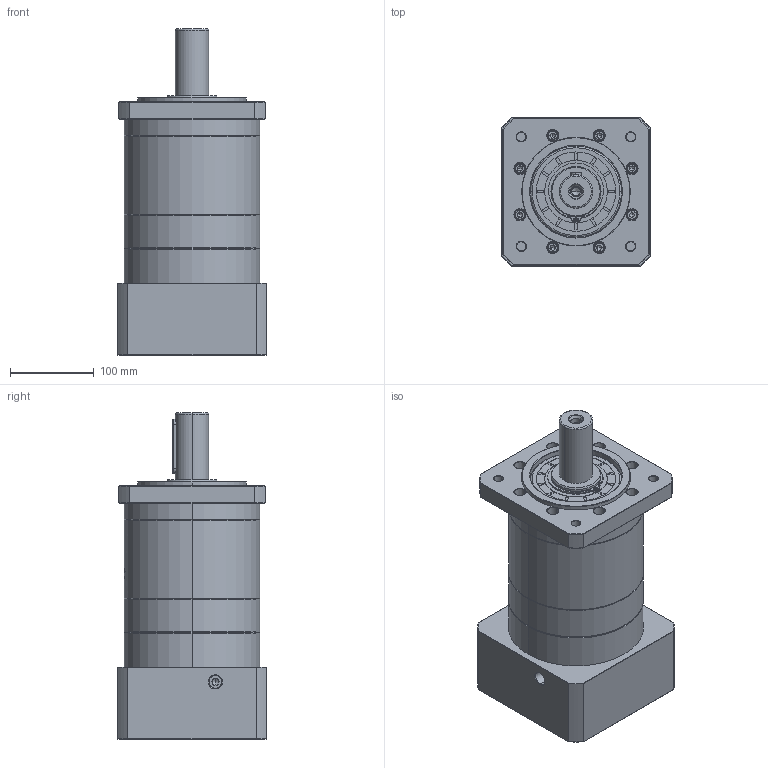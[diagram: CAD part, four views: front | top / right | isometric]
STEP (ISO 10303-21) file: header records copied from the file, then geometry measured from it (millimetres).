
FILE_DESCRIPTION (( 'STEP AP214' ), '1' );
FILE_NAME ('ZF160-D40-L3-42-114.3-200-M12.step', '2023-03-21T04:30:57', ( '' ), ( '' ), 'SwSTEP 2.0', 'SolidWorks 2016', '' );
FILE_SCHEMA (( 'AUTOMOTIVE_DESIGN' ));
Length unit declared in the file: millimetre
Products named in the file (1): ZF160-D40-L3-42-114.3-200-M12
Bounding box: 178 x 178 x 390.2 mm (x, y, z)
Volume: 6733961.5 mm3; surface area: 400975.4 mm2
Topology: 5 solids, 5 shells, 1617 faces, 4187 edges, 2676 vertices
Faces by surface type: plane 642, cylinder 408, cone 327, bspline 218, torus 22
Entity records: 92964 total; most frequent: CARTESIAN_POINT 37850, ORIENTED_EDGE 8314, DIRECTION 7073, EDGE_CURVE 4157, VERTEX_POINT 2676, AXIS2_PLACEMENT_3D 2449, LINE 2175, VECTOR 2175
